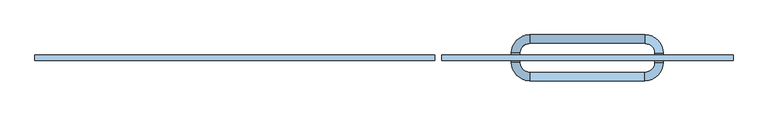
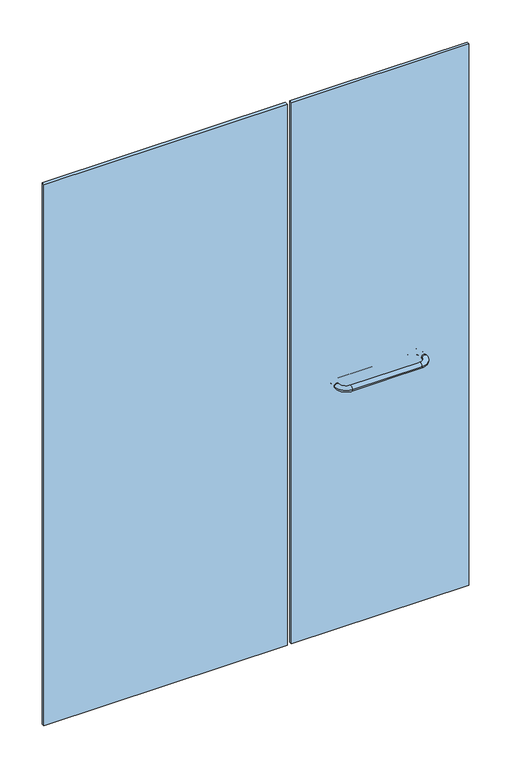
"""IFC4 building model written with IfcOpenShell, lengths in millimetres: window geometry, Baño 1 Puerta lateral - toallero simple : CA02-cancel baño-1.50."""

from ifc_helpers import new_model, si_unit, point, frame, origin, origin_with_axes, place, context, project, spatial, polyline, circle_curve, ellipse_curve, trimmed, outline, extrude, source, transform, mapped, element, save
from ifc_brep_helpers import cylinder_surface, revolved_surface, advanced_brep


def window_db60b2a9(model_context):
    return source(origin(), model_context, "Body", "SolidModel", [
        extrude(outline(polyline([(115.0, 5.5), (735.0, 5.5), (735.0, -5.5), (115.0, -5.5), (115.0, 5.5)])), origin_with_axes(), (0.0, 0.0, 1.0), 2000.0),
        extrude(outline(polyline([(-750.0, 5.5), (100.0, 5.5), (100.0, -5.5), (-750.0, -5.5), (-750.0, 5.5)])), origin_with_axes(), (0.0, 0.0, 1.0), 2000.0),
        advanced_brep(
        [(263.5, -10.0, 900.0), (281.5, -10.0, 900.0), (302.5, -31.0, 900.0), (302.5, -49.0, 900.0), (263.5, 10.0, 900.0), (281.5, 10.0, 900.0), (302.5, 49.0, 900.0), (302.5, 31.0, 900.0), (547.5, 49.0, 900.0), (547.5, 31.0, 900.0), (586.5, 10.0, 900.0), (568.5, 10.0, 900.0), (586.5, -10.0, 900.0), (568.5, -10.0, 900.0), (547.5, -49.0, 900.0), (547.5, -31.0, 900.0)],
        [
            (0, 1, circle_curve(frame((272.5, -10.0, 900.0), z_axis=(0.0, -1.0, 0.0), x_axis=(1.0, 0.0, 0.0)), 9.0)),
            (1, 2, circle_curve(frame((302.5, -10.0, 900.0), z_axis=(0.0, 0.0, 1.0), x_axis=(0.0, -1.0, 0.0)), 21.0)),
            (2, 3, circle_curve(frame((302.5, -40.0, 900.0), z_axis=(-1.0, 0.0, 0.0), x_axis=(0.0, 1.0, 0.0)), 9.0)),
            (3, 0, circle_curve(frame((302.5, -10.0, 900.0), z_axis=(0.0, 0.0, -1.0), x_axis=(0.0, -1.0, 0.0)), 39.0)),
            (1, 0, circle_curve(frame((272.5, -10.0, 900.0), z_axis=(0.0, -1.0, 0.0), x_axis=(1.0, 0.0, 0.0)), 9.0)),
            (3, 2, circle_curve(frame((302.5, -40.0, 900.0), z_axis=(-1.0, 0.0, 0.0), x_axis=(0.0, 1.0, 0.0)), 9.0)),
            (0, 4),
            (4, 5, circle_curve(frame((272.5, 10.0, 900.0), z_axis=(0.0, -1.0, 0.0), x_axis=(1.0, 0.0, 0.0)), 9.0)),
            (5, 1),
            (5, 4, circle_curve(frame((272.5, 10.0, 900.0), z_axis=(0.0, -1.0, 0.0), x_axis=(1.0, 0.0, 0.0)), 9.0)),
            (6, 7, circle_curve(frame((302.5, 40.0, 900.0), z_axis=(-1.0, 0.0, 0.0), x_axis=(0.0, -1.0, 0.0)), 9.0)),
            (7, 5, circle_curve(frame((302.5, 10.0, 900.0), z_axis=(0.0, 0.0, 1.0), x_axis=(-1.0, 0.0, 0.0)), 21.0)),
            (4, 6, circle_curve(frame((302.5, 10.0, 900.0), z_axis=(0.0, 0.0, -1.0), x_axis=(-1.0, 0.0, 0.0)), 39.0)),
            (7, 6, circle_curve(frame((302.5, 40.0, 900.0), z_axis=(-1.0, 0.0, 0.0), x_axis=(0.0, -1.0, 0.0)), 9.0)),
            (6, 8),
            (8, 9, circle_curve(frame((547.5, 40.0, 900.0), z_axis=(-1.0, 0.0, 0.0), x_axis=(0.0, -1.0, 0.0)), 9.0)),
            (9, 7),
            (9, 8, circle_curve(frame((547.5, 40.0, 900.0), z_axis=(-1.0, 0.0, 0.0), x_axis=(0.0, -1.0, 0.0)), 9.0)),
            (10, 11, circle_curve(frame((577.5, 10.0, 900.0), z_axis=(0.0, 1.0, 0.0), x_axis=(-1.0, 0.0, 0.0)), 9.0)),
            (11, 9, circle_curve(frame((547.5, 10.0, 900.0), z_axis=(0.0, 0.0, 1.0), x_axis=(0.0, 1.0, 0.0)), 21.0)),
            (8, 10, circle_curve(frame((547.5, 10.0, 900.0), z_axis=(0.0, 0.0, -1.0), x_axis=(0.0, 1.0, 0.0)), 39.0)),
            (11, 10, circle_curve(frame((577.5, 10.0, 900.0), z_axis=(0.0, 1.0, 0.0), x_axis=(-1.0, 0.0, 0.0)), 9.0)),
            (10, 12),
            (12, 13, circle_curve(frame((577.5, -10.0, 900.0), z_axis=(0.0, 1.0, 0.0), x_axis=(-1.0, 0.0, 0.0)), 9.0)),
            (13, 11),
            (13, 12, circle_curve(frame((577.5, -10.0, 900.0), z_axis=(0.0, 1.0, 0.0), x_axis=(-1.0, 0.0, 0.0)), 9.0)),
            (14, 15, circle_curve(frame((547.5, -40.0, 900.0), z_axis=(1.0, 0.0, 0.0), x_axis=(0.0, 1.0, 0.0)), 9.0)),
            (15, 13, circle_curve(frame((547.5, -10.0, 900.0), z_axis=(0.0, 0.0, 1.0), x_axis=(1.0, 0.0, 0.0)), 21.0)),
            (12, 14, circle_curve(frame((547.5, -10.0, 900.0), z_axis=(0.0, 0.0, -1.0), x_axis=(1.0, 0.0, 0.0)), 39.0)),
            (15, 14, circle_curve(frame((547.5, -40.0, 900.0), z_axis=(1.0, 0.0, 0.0), x_axis=(0.0, 1.0, 0.0)), 9.0)),
            (14, 3),
            (2, 15),
        ],
        [
            revolved_surface(trimmed(ellipse_curve(frame((302.5, -40.0, 900.0), z_axis=(-1.0, 0.0, 0.0), x_axis=(0.0, 1.0, 0.0)), 9.0, 9.0), [point((302.5, -31.0, 900.0))], [point((302.5, -49.0, 900.0))], True, "CARTESIAN"), (302.5, -10.0, 0.0), (0.0, 0.0, 1.0)),
            revolved_surface(trimmed(ellipse_curve(frame((302.5, -40.0, 900.0), z_axis=(-1.0, 0.0, 0.0), x_axis=(0.0, 1.0, 0.0)), 9.0, 9.0), [point((302.5, -49.0, 900.0))], [point((302.5, -31.0, 900.0))], True, "CARTESIAN"), (302.5, -10.0, 0.0), (0.0, 0.0, 1.0)),
            cylinder_surface(frame((272.5, -10.0, 900.0), z_axis=(0.0, -1.0, 0.0), x_axis=(1.0, 0.0, 0.0)), 9.0),
            revolved_surface(trimmed(ellipse_curve(frame((272.5, 10.0, 900.0), z_axis=(0.0, 1.0, 0.0), x_axis=(1.0, 0.0, 0.0)), 9.0, 9.0), [point((281.5, 10.0, 900.0))], [point((263.5, 10.0, 900.0))], True, "CARTESIAN"), (302.5, 10.0, 0.0), (0.0, 0.0, 1.0)),
            revolved_surface(trimmed(ellipse_curve(frame((272.5, 10.0, 900.0), z_axis=(0.0, 1.0, 0.0), x_axis=(1.0, 0.0, 0.0)), 9.0, 9.0), [point((263.5, 10.0, 900.0))], [point((281.5, 10.0, 900.0))], True, "CARTESIAN"), (302.5, 10.0, 0.0), (0.0, 0.0, 1.0)),
            cylinder_surface(frame((302.5, 40.0, 900.0), z_axis=(-1.0, 0.0, 0.0), x_axis=(0.0, -1.0, 0.0)), 9.0),
            revolved_surface(trimmed(ellipse_curve(frame((547.5, 40.0, 900.0), z_axis=(1.0, 0.0, 0.0), x_axis=(0.0, -1.0, 0.0)), 9.0, 9.0), [point((547.5, 31.0, 900.0))], [point((547.5, 49.0, 900.0))], True, "CARTESIAN"), (547.5, 10.0, 0.0), (0.0, 0.0, 1.0)),
            revolved_surface(trimmed(ellipse_curve(frame((547.5, 40.0, 900.0), z_axis=(1.0, 0.0, 0.0), x_axis=(0.0, -1.0, 0.0)), 9.0, 9.0), [point((547.5, 49.0, 900.0))], [point((547.5, 31.0, 900.0))], True, "CARTESIAN"), (547.5, 10.0, 0.0), (0.0, 0.0, 1.0)),
            cylinder_surface(frame((577.5, 10.0, 900.0), z_axis=(0.0, 1.0, 0.0), x_axis=(-1.0, 0.0, 0.0)), 9.0),
            revolved_surface(trimmed(ellipse_curve(frame((577.5, -10.0, 900.0), z_axis=(0.0, -1.0, 0.0), x_axis=(-1.0, 0.0, 0.0)), 9.0, 9.0), [point((568.5, -10.0, 900.0))], [point((586.5, -10.0, 900.0))], True, "CARTESIAN"), (547.5, -10.0, 0.0), (0.0, 0.0, 1.0)),
            revolved_surface(trimmed(ellipse_curve(frame((577.5, -10.0, 900.0), z_axis=(0.0, -1.0, 0.0), x_axis=(-1.0, 0.0, 0.0)), 9.0, 9.0), [point((586.5, -10.0, 900.0))], [point((568.5, -10.0, 900.0))], True, "CARTESIAN"), (547.5, -10.0, 0.0), (0.0, 0.0, 1.0)),
            cylinder_surface(frame((547.5, -40.0, 900.0), z_axis=(1.0, 0.0, 0.0), x_axis=(0.0, 1.0, 0.0)), 9.0),
        ],
        [
            (0, [[1, 2, 3, 4]]),
            (1, [[5, -4, 6, -2]]),
            (2, [[7, 8, 9, -1]]),
            (2, [[-9, 10, -7, -5]]),
            (3, [[11, 12, -8, 13]]),
            (4, [[14, -13, -10, -12]]),
            (5, [[15, 16, 17, -11]]),
            (5, [[-17, 18, -15, -14]]),
            (6, [[19, 20, -16, 21]]),
            (7, [[22, -21, -18, -20]]),
            (8, [[23, 24, 25, -19]]),
            (8, [[-25, 26, -23, -22]]),
            (9, [[27, 28, -24, 29]]),
            (10, [[30, -29, -26, -28]]),
            (11, [[31, -3, 32, -27]]),
            (11, [[-32, -6, -31, -30]]),
        ],
    ),
    ])


if __name__ == "__main__":
    model = new_model("IFC4")
    model_context = context("Model", 3, world=origin())
    ifc_project = project(units=[si_unit("LENGTHUNIT", "METRE", prefix="MILLI")], contexts=[model_context])
    site = spatial("IfcSite", under=ifc_project)
    building = spatial("IfcBuilding", under=site)
    placement = place(None, origin())
    window_shape = window_db60b2a9(model_context)
    element("IfcWindow", 1, ObjectType="Baño 1 Puerta lateral - toallero simple : CA02-cancel baño-1.50", at=placement, inside=building, context=model_context, shape_type="MappedRepresentation", body=[
        mapped(window_shape, transform((0.0, 0.0, 0.0), x_axis=(1.0, 0.0, 0.0), y_axis=(0.0, 1.0, 0.0), z_axis=(0.0, 0.0, 1.0))),
    ])
    save(model, "model.ifc")
